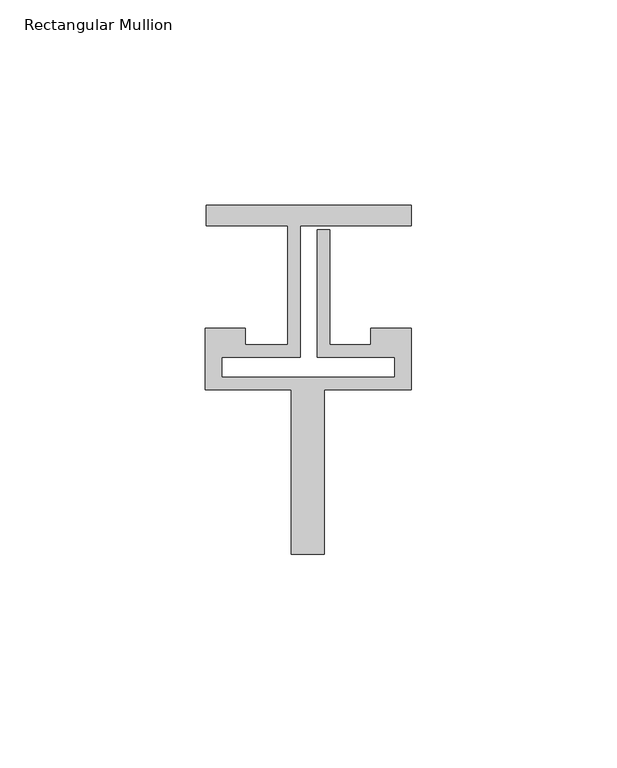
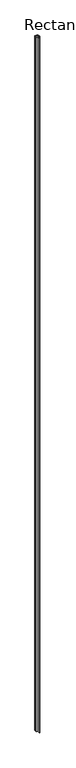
"""IFC4 building model written with IfcOpenShell, lengths in millimetres: member geometry, Rectangular Mullion : Reynaers_CW-50_Mullion-Transom_Horizontal_5mm_Facecap-06B."""

from ifc_helpers import new_model, si_unit, frame, origin, place, context, project, spatial, polyline, outline, extrude, source, transform, mapped, element, save


def rectangular_mullion_6baa7c06(model_context):
    return source(origin(), model_context, "Body", "SweptSolid", [
        extrude(outline(polyline([(-24.8004059, 17.5), (25.1995941, 17.5), (25.1995941, 12.5), (-1.9004059, 12.5), (-1.9004059, -19.5), (-20.994845, -19.5), (-20.994845, -24.4191338), (21.1995941, -24.4191338), (21.1995941, -19.5), (2.2995941, -19.5), (2.2995941, 11.5), (5.2995941, 11.5), (5.2995941, -16.5), (15.2996495, -16.5), (15.2996495, -12.5), (25.1995941, -12.5), (25.1995941, -27.5), (4.004855, -27.5), (4.004855, -67.5), (-3.995145, -67.5), (-3.995145, -27.5), (-24.994845, -27.5), (-24.994845, -12.5), (-15.2996495, -12.5), (-15.2996495, -16.5), (-4.9004059, -16.5), (-4.9004059, 12.5), (-24.8004059, 12.5), (-24.8004059, 17.5)])), frame((0.0, 0.0, -12000.0), z_axis=(0.0, 0.0, 1.0), x_axis=(1.0, 0.0, 0.0)), (0.0, 0.0, 1.0), 12000.0),
    ])


if __name__ == "__main__":
    model = new_model("IFC4")
    model_context = context("Model", 3, world=origin())
    ifc_project = project(units=[si_unit("LENGTHUNIT", "METRE", prefix="MILLI")], contexts=[model_context])
    site = spatial("IfcSite", under=ifc_project)
    building = spatial("IfcBuilding", under=site)
    placement = place(None, origin())
    rectangular_mullion_shape = rectangular_mullion_6baa7c06(model_context)
    element("IfcMember", 1, ObjectType="Rectangular Mullion : Reynaers_CW-50_Mullion-Transom_Horizontal_5mm_Facecap-06B", at=placement, inside=building, context=model_context, shape_type="MappedRepresentation", body=[
        mapped(rectangular_mullion_shape, transform((0.0, 0.0, 0.0), x_axis=(1.0, 0.0, 0.0), y_axis=(0.0, 1.0, 0.0), z_axis=(0.0, 0.0, 1.0))),
    ])
    save(model, "model.ifc")
